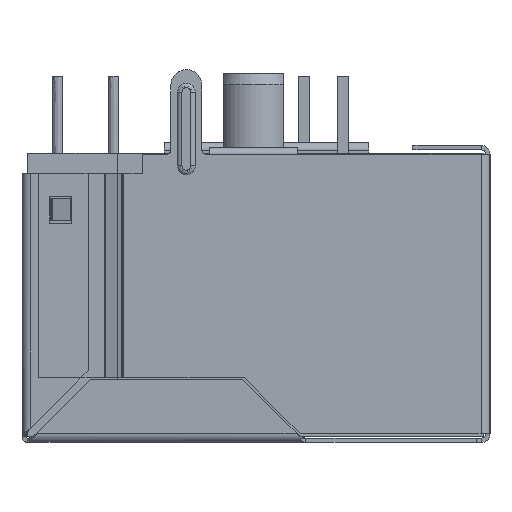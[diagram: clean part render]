
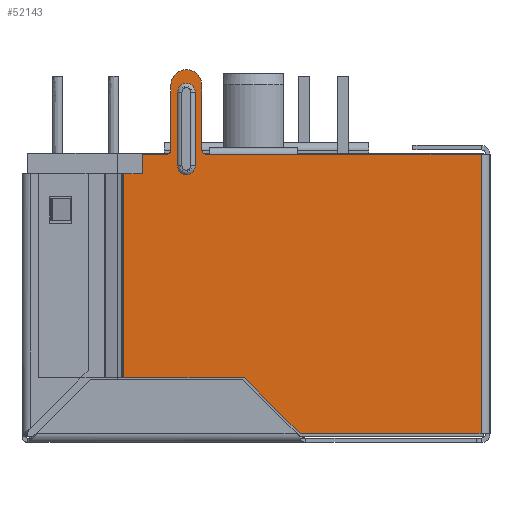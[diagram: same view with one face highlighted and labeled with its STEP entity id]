
A CAD part, left-side view. The second image highlights one B-rep face of the part: STEP entity #52143.
In plain terms, the highlighted planar face has unit normal (-1, 0, 0) as drawn and (1, 0, 0) by its records, which use the part's own axes.
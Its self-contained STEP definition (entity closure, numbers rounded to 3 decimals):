
#44333=DIRECTION('',(0.,0.,1.));
#44334=VECTOR('',#44333,12.7);
#44335=CARTESIAN_POINT('',(29.525,-0.2,-12.7));
#44336=LINE('',#44335,#44334);
#44504=DIRECTION('',(0.,1.,0.));
#44505=VECTOR('',#44504,4.);
#44506=CARTESIAN_POINT('',(29.525,-12.55,0.));
#44507=LINE('',#44506,#44505);
#44597=CARTESIAN_POINT('',(29.525,-13.6,2.825));
#44598=DIRECTION('',(1.,0.,0.));
#44599=DIRECTION('',(0.,1.,0.));
#44600=AXIS2_PLACEMENT_3D('',#44597,#44598,#44599);
#44602=DIRECTION('',(0.,0.,-1.));
#44603=VECTOR('',#44602,3.35);
#44604=CARTESIAN_POINT('',(29.525,-14.,2.825));
#44605=LINE('',#44604,#44603);
#44606=CARTESIAN_POINT('',(29.525,-13.6,-0.525));
#44607=DIRECTION('',(1.,0.,0.));
#44608=DIRECTION('',(0.,-1.,0.));
#44609=AXIS2_PLACEMENT_3D('',#44606,#44607,#44608);
#44611=DIRECTION('',(0.,0.,1.));
#44612=VECTOR('',#44611,3.35);
#44613=CARTESIAN_POINT('',(29.525,-13.2,-0.525));
#44614=LINE('',#44613,#44612);
#44615=DIRECTION('',(0.,-1.,0.));
#44616=VECTOR('',#44615,0.2);
#44617=CARTESIAN_POINT('',(29.525,-0.2,-12.7));
#44618=LINE('',#44617,#44616);
#44619=DIRECTION('',(0.,1.,0.));
#44620=VECTOR('',#44619,8.029);
#44621=CARTESIAN_POINT('',(29.525,-8.429,-12.7));
#44622=LINE('',#44621,#44620);
#44623=DIRECTION('',(0.,0.707,-0.707));
#44624=VECTOR('',#44623,3.593);
#44625=CARTESIAN_POINT('',(29.525,-10.969,-10.159));
#44626=LINE('',#44625,#44624);
#44627=DIRECTION('',(0.,1.,0.));
#44628=VECTOR('',#44627,5.478);
#44629=CARTESIAN_POINT('',(29.525,-16.447,-10.159));
#44630=LINE('',#44629,#44628);
#44631=DIRECTION('',(0.,-1.,0.));
#44632=VECTOR('',#44631,0.847);
#44633=CARTESIAN_POINT('',(29.525,-15.6,-0.88));
#44634=LINE('',#44633,#44632);
#44635=DIRECTION('',(0.,0.,-1.));
#44636=VECTOR('',#44635,0.88);
#44637=CARTESIAN_POINT('',(29.525,-15.6,0.));
#44638=LINE('',#44637,#44636);
#44639=DIRECTION('',(0.,-1.,0.));
#44640=VECTOR('',#44639,1.1);
#44641=CARTESIAN_POINT('',(29.525,-14.5,0.));
#44642=LINE('',#44641,#44640);
#44643=CARTESIAN_POINT('',(29.525,-14.5,0.2));
#44644=DIRECTION('',(-1.,0.,0.));
#44645=DIRECTION('',(0.,1.,0.));
#44646=AXIS2_PLACEMENT_3D('',#44643,#44644,#44645);
#44648=DIRECTION('',(0.,0.,-1.));
#44649=VECTOR('',#44648,2.95);
#44650=CARTESIAN_POINT('',(29.525,-14.3,3.15));
#44651=LINE('',#44650,#44649);
#44652=CARTESIAN_POINT('',(29.525,-13.6,3.15));
#44653=DIRECTION('',(1.,0.,0.));
#44654=DIRECTION('',(0.,1.,0.));
#44655=AXIS2_PLACEMENT_3D('',#44652,#44653,#44654);
#44657=DIRECTION('',(0.,0.,1.));
#44658=VECTOR('',#44657,2.95);
#44659=CARTESIAN_POINT('',(29.525,-12.9,0.2));
#44660=LINE('',#44659,#44658);
#44661=CARTESIAN_POINT('',(29.525,-12.7,0.2));
#44662=DIRECTION('',(-1.,0.,0.));
#44663=DIRECTION('',(0.,0.,-1.));
#44664=AXIS2_PLACEMENT_3D('',#44661,#44662,#44663);
#44666=DIRECTION('',(0.,-1.,0.));
#44667=VECTOR('',#44666,0.15);
#44668=CARTESIAN_POINT('',(29.525,-12.55,0.));
#44669=LINE('',#44668,#44667);
#44670=DIRECTION('',(0.,-1.,0.));
#44671=VECTOR('',#44670,8.35);
#44672=CARTESIAN_POINT('',(29.525,-0.2,0.));
#44673=LINE('',#44672,#44671);
#44738=DIRECTION('',(0.,0.,1.));
#44739=VECTOR('',#44738,9.279);
#44740=CARTESIAN_POINT('',(29.525,-16.447,-10.159));
#44741=LINE('',#44740,#44739);
#48120=CARTESIAN_POINT('',(29.525,-12.7,0.));
#48121=CARTESIAN_POINT('',(29.525,-12.9,0.2));
#48122=VERTEX_POINT('',#48120);
#48123=VERTEX_POINT('',#48121);
#48124=CARTESIAN_POINT('',(29.525,-12.9,3.15));
#48125=VERTEX_POINT('',#48124);
#48126=CARTESIAN_POINT('',(29.525,-14.3,3.15));
#48127=VERTEX_POINT('',#48126);
#48128=CARTESIAN_POINT('',(29.525,-14.3,0.2));
#48129=VERTEX_POINT('',#48128);
#48130=CARTESIAN_POINT('',(29.525,-14.5,0.));
#48131=VERTEX_POINT('',#48130);
#48132=CARTESIAN_POINT('',(29.525,-10.969,-10.159));
#48133=CARTESIAN_POINT('',(29.525,-8.429,-12.7));
#48134=VERTEX_POINT('',#48132);
#48135=VERTEX_POINT('',#48133);
#48152=CARTESIAN_POINT('',(29.525,-16.447,-10.159));
#48153=VERTEX_POINT('',#48152);
#48188=CARTESIAN_POINT('',(29.525,-15.6,0.));
#48189=VERTEX_POINT('',#48188);
#48190=CARTESIAN_POINT('',(29.525,-15.6,-0.88));
#48191=VERTEX_POINT('',#48190);
#48196=CARTESIAN_POINT('',(29.525,-16.447,-0.88));
#48197=VERTEX_POINT('',#48196);
#48248=CARTESIAN_POINT('',(29.525,-13.2,2.825));
#48249=CARTESIAN_POINT('',(29.525,-14.,2.825));
#48250=VERTEX_POINT('',#48248);
#48251=VERTEX_POINT('',#48249);
#48252=CARTESIAN_POINT('',(29.525,-14.,-0.525));
#48253=VERTEX_POINT('',#48252);
#48254=CARTESIAN_POINT('',(29.525,-13.2,-0.525));
#48255=VERTEX_POINT('',#48254);
#48352=CARTESIAN_POINT('',(29.525,-0.2,0.));
#48354=VERTEX_POINT('',#48352);
#48360=CARTESIAN_POINT('',(29.525,-8.55,0.));
#48361=VERTEX_POINT('',#48360);
#48362=CARTESIAN_POINT('',(29.525,-12.55,0.));
#48363=VERTEX_POINT('',#48362);
#48417=CARTESIAN_POINT('',(29.525,-0.2,-12.7));
#48418=CARTESIAN_POINT('',(29.525,-0.4,-12.7));
#48419=VERTEX_POINT('',#48417);
#48420=VERTEX_POINT('',#48418);
#52096=CARTESIAN_POINT('',(29.525,0.2,-3.018));
#52097=DIRECTION('',(1.,0.,0.));
#52098=DIRECTION('',(0.,0.,1.));
#52099=AXIS2_PLACEMENT_3D('',#52096,#52097,#52098);
#52100=PLANE('',#52099);
#52101=ORIENTED_EDGE('',*,*,#51754,.F.);
#52103=ORIENTED_EDGE('',*,*,#52102,.T.);
#52105=ORIENTED_EDGE('',*,*,#52104,.F.);
#52107=ORIENTED_EDGE('',*,*,#52106,.F.);
#52109=ORIENTED_EDGE('',*,*,#52108,.F.);
#52111=ORIENTED_EDGE('',*,*,#52110,.T.);
#52113=ORIENTED_EDGE('',*,*,#52112,.F.);
#52115=ORIENTED_EDGE('',*,*,#52114,.F.);
#52117=ORIENTED_EDGE('',*,*,#52116,.F.);
#52119=ORIENTED_EDGE('',*,*,#52118,.F.);
#52121=ORIENTED_EDGE('',*,*,#52120,.F.);
#52123=ORIENTED_EDGE('',*,*,#52122,.F.);
#52125=ORIENTED_EDGE('',*,*,#52124,.F.);
#52127=ORIENTED_EDGE('',*,*,#52126,.F.);
#52128=ORIENTED_EDGE('',*,*,#51915,.F.);
#52129=ORIENTED_EDGE('',*,*,#51961,.T.);
#52130=ORIENTED_EDGE('',*,*,#51932,.F.);
#52131=EDGE_LOOP('',(#52101,#52103,#52105,#52107,#52109,#52111,#52113,#52115,
#52117,#52119,#52121,#52123,#52125,#52127,#52128,#52129,#52130));
#52132=FACE_OUTER_BOUND('',#52131,.F.);
#52134=ORIENTED_EDGE('',*,*,#52133,.T.);
#52136=ORIENTED_EDGE('',*,*,#52135,.T.);
#52138=ORIENTED_EDGE('',*,*,#52137,.T.);
#52140=ORIENTED_EDGE('',*,*,#52139,.T.);
#52141=EDGE_LOOP('',(#52134,#52136,#52138,#52140));
#52142=FACE_BOUND('',#52141,.F.);
#52143=ADVANCED_FACE('',(#52132,#52142),#52100,.T.);
#44601=CIRCLE('',#44600,0.4);
#44610=CIRCLE('',#44609,0.4);
#44647=CIRCLE('',#44646,0.2);
#44656=CIRCLE('',#44655,0.7);
#44665=CIRCLE('',#44664,0.2);
#51754=EDGE_CURVE('',#48419,#48354,#44336,.T.);
#51915=EDGE_CURVE('',#48363,#48122,#44669,.T.);
#51932=EDGE_CURVE('',#48354,#48361,#44673,.T.);
#51961=EDGE_CURVE('',#48363,#48361,#44507,.T.);
#52102=EDGE_CURVE('',#48419,#48420,#44618,.T.);
#52104=EDGE_CURVE('',#48135,#48420,#44622,.T.);
#52106=EDGE_CURVE('',#48134,#48135,#44626,.T.);
#52108=EDGE_CURVE('',#48153,#48134,#44630,.T.);
#52110=EDGE_CURVE('',#48153,#48197,#44741,.T.);
#52112=EDGE_CURVE('',#48191,#48197,#44634,.T.);
#52114=EDGE_CURVE('',#48189,#48191,#44638,.T.);
#52116=EDGE_CURVE('',#48131,#48189,#44642,.T.);
#52118=EDGE_CURVE('',#48129,#48131,#44647,.T.);
#52120=EDGE_CURVE('',#48127,#48129,#44651,.T.);
#52122=EDGE_CURVE('',#48125,#48127,#44656,.T.);
#52124=EDGE_CURVE('',#48123,#48125,#44660,.T.);
#52126=EDGE_CURVE('',#48122,#48123,#44665,.T.);
#52133=EDGE_CURVE('',#48250,#48251,#44601,.T.);
#52135=EDGE_CURVE('',#48251,#48253,#44605,.T.);
#52137=EDGE_CURVE('',#48253,#48255,#44610,.T.);
#52139=EDGE_CURVE('',#48255,#48250,#44614,.T.);
